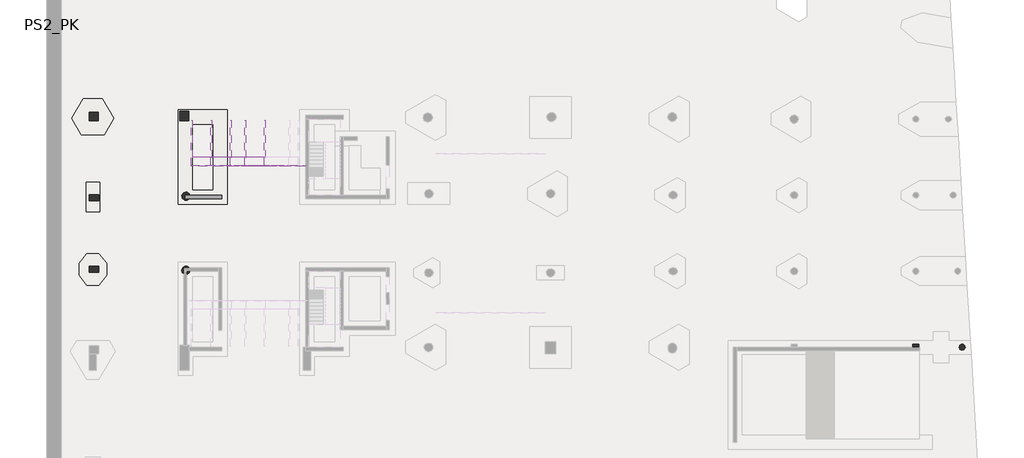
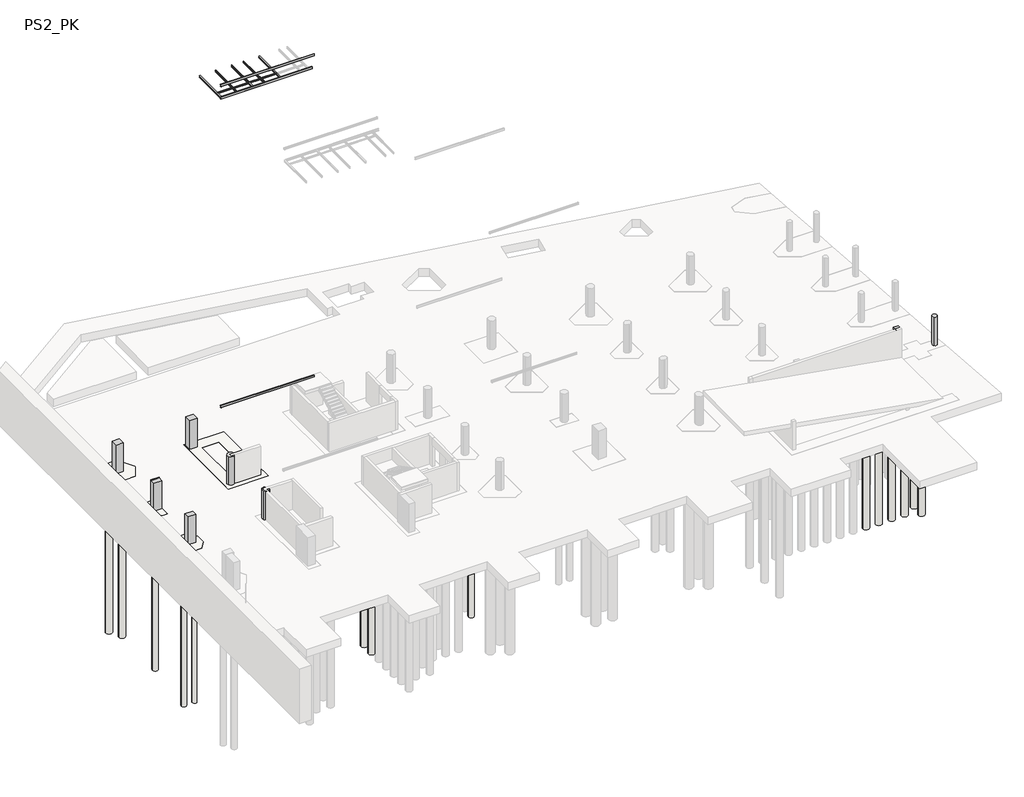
# One storey, part 5 of 10: 50 slabs, 12 beams, 8 columns.
"""IFC4 building model written with IfcOpenShell, lengths in millimetres."""

from ifc_helpers import new_model, si_unit, point, frame, frame_2d, origin, place, context, project, spatial, polyline, circle_curve, trimmed, segment, composite_curve, outline, extrude, faceted_brep, transform, mapped, element, save
from components import ub_universal_beams_ipe_160x82_eda7b881, ub_universal_beams_ipe_160x82_7e898317, upn120x55_8ca40f5d, upn120x55_f8c29ef0, upn120x55_6f2391d9, upn200x75_7de89c9f, upn200x75_1ffd0ced, upn200x75_a5d547cd

model = new_model("IFC4")

# Units and contexts
model_context = context("Model", 3, world=origin())
ifc_project = project(units=[si_unit("LENGTHUNIT", "METRE", prefix="MILLI")], contexts=[model_context])

# Site, building, storey
site = spatial("IfcSite", under=ifc_project)
building = spatial("IfcBuilding", under=site)
storey = spatial("IfcBuildingStorey", under=building, Name="PS2_PK", Elevation=-1600.0)

# Beams
placement = place(None, origin())
ub_universal_beams_ipe_160x82_shape = ub_universal_beams_ipe_160x82_eda7b881(model_context)
element("IfcBeam", 1, ObjectType="UB-Universal Beams : IPE 160x82", at=placement, inside=storey, context=model_context, shape_type="MappedRepresentation", body=[
    mapped(ub_universal_beams_ipe_160x82_shape, transform((-16990.4459316, 11897.1885611, 37780.0), x_axis=(0.0, -1.0, 0.0), y_axis=(1.0, 0.0, 0.0), z_axis=(0.0, 0.0, 1.0))),
])
element("IfcBeam", 2, ObjectType="UB-Universal Beams : IPE 160x82", at=placement, inside=storey, context=model_context, shape_type="MappedRepresentation", body=[
    mapped(ub_universal_beams_ipe_160x82_shape, transform((-18590.4459308, 11897.1885357, 37780.0), x_axis=(0.0, -1.0, 0.0), y_axis=(1.0, 0.0, 0.0), z_axis=(0.0, 0.0, 1.0))),
])
element("IfcBeam", 3, ObjectType="UB-Universal Beams : IPE 160x82", at=placement, inside=storey, context=model_context, shape_type="MappedRepresentation", body=[
    mapped(ub_universal_beams_ipe_160x82_shape, transform((-19790.4459314, 11897.1885167, 37780.0), x_axis=(0.0, -1.0, 0.0), y_axis=(1.0, 0.0, 0.0), z_axis=(0.0, 0.0, 1.0))),
])
element("IfcBeam", 4, ObjectType="UB-Universal Beams : IPE 160x82", at=placement, inside=storey, context=model_context, shape_type="MappedRepresentation", body=[
    mapped(ub_universal_beams_ipe_160x82_shape, transform((-21390.4459306, 11897.1884913, 37780.0), x_axis=(0.0, -1.0, 0.0), y_axis=(1.0, 0.0, 0.0), z_axis=(0.0, 0.0, 1.0))),
])
ub_universal_beams_ipe_160x82_2_shape = ub_universal_beams_ipe_160x82_7e898317(model_context)
element("IfcBeam", 5, ObjectType="UB-Universal Beams : IPE 160x82", at=placement, inside=storey, context=model_context, shape_type="MappedRepresentation", body=[
    mapped(ub_universal_beams_ipe_160x82_2_shape, transform((-22991.1860553, 11897.1884659, 37780.0), x_axis=(0.0, -1.0, 0.0), y_axis=(1.0, 0.0, 0.0), z_axis=(0.0, 0.0, 1.0))),
])
upn120x55_shape = upn120x55_8ca40f5d(model_context)
element("IfcBeam", 6, ObjectType="M_MC Shapes : UPN120x55", at=placement, inside=storey, context=model_context, shape_type="MappedRepresentation", body=[
    mapped(upn120x55_shape, transform((-22165.4459321, 10751.9793096, 37800.0), x_axis=(0.9999999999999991, 4.319865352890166e-08, 0.0), y_axis=(-4.319865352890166e-08, 0.9999999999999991, 0.0), z_axis=(0.0, 0.0, 1.0))),
])
upn120x55_2_shape = upn120x55_f8c29ef0(model_context)
element("IfcBeam", 7, ObjectType="M_MC Shapes : UPN120x55", at=placement, inside=storey, context=model_context, shape_type="MappedRepresentation", body=[
    mapped(upn120x55_2_shape, transform((-20590.445931, 10751.9793776, 37800.0), x_axis=(0.9999999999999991, 4.319865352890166e-08, 0.0), y_axis=(-4.319865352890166e-08, 0.9999999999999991, 0.0), z_axis=(0.0, 0.0, 1.0))),
])
element("IfcBeam", 8, ObjectType="M_MC Shapes : UPN120x55", at=placement, inside=storey, context=model_context, shape_type="MappedRepresentation", body=[
    mapped(upn120x55_2_shape, transform((-17790.4459312, 10751.9794985, 37800.0), x_axis=(0.9999999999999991, 4.319865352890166e-08, 0.0), y_axis=(-4.319865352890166e-08, 0.9999999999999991, 0.0), z_axis=(0.0, 0.0, 1.0))),
])
upn120x55_3_shape = upn120x55_6f2391d9(model_context)
element("IfcBeam", 9, ObjectType="M_MC Shapes : UPN120x55", at=placement, inside=storey, context=model_context, shape_type="MappedRepresentation", body=[
    mapped(upn120x55_3_shape, transform((-19190.4459311, 10751.9794381, 37800.0), x_axis=(0.9999999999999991, 4.319865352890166e-08, 0.0), y_axis=(-4.319865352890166e-08, 0.9999999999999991, 0.0), z_axis=(0.0, 0.0, 1.0))),
])
upn200x75_shape = upn200x75_7de89c9f(model_context)
element("IfcBeam", 10, ObjectType="M_MC Shapes : UPN200x75", at=placement, inside=storey, context=model_context, shape_type="MappedRepresentation", body=[
    mapped(upn200x75_shape, transform((-18340.3195829, 10001.279066, 39062.1136491), x_axis=(-0.9999999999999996, 3.175673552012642e-08, 0.0), y_axis=(-3.175673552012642e-08, -0.9999999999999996, 0.0), z_axis=(0.0, 0.0, 1.0))),
])
upn200x75_2_shape = upn200x75_1ffd0ced(model_context)
element("IfcBeam", 11, ObjectType="M_MC Shapes : UPN200x75", at=placement, inside=storey, context=model_context, shape_type="MappedRepresentation", body=[
    mapped(upn200x75_2_shape, transform((-18402.3873746, 10001.2790679, 37760.0000416), x_axis=(-0.9999999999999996, 3.175673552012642e-08, 0.0), y_axis=(-3.175673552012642e-08, -0.9999999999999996, 0.0), z_axis=(0.0, 0.0, 1.0))),
])
upn200x75_3_shape = upn200x75_a5d547cd(model_context)
element("IfcBeam", 12, ObjectType="M_MC Shapes : UPN200x75", at=placement, inside=storey, context=model_context, shape_type="MappedRepresentation", body=[
    mapped(upn200x75_3_shape, transform((-18277.8195826, 10001.279064, 4879.9998505), x_axis=(-0.9999999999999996, 3.175673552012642e-08, 0.0), y_axis=(-3.175673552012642e-08, -0.9999999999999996, 0.0), z_axis=(0.0, 0.0, 1.0))),
])

# Columns
element("IfcColumn", 13, ObjectType="Hormigón-Redondo-Pilar : Pilo_Rodo-Formigo-500", at=placement, inside=storey, context=model_context, shape_type="SweptSolid", body=[
    extrude(outline(composite_curve([segment(trimmed(circle_curve(frame_2d((40283.1132352, -4885.099143)), 250.0), [point((40077.2082942, -5026.8847392))], [point((40489.0181762, -4743.3135469))], False, "CARTESIAN"), True, "CONTINUOUS"), segment(trimmed(circle_curve(frame_2d((40283.1132352, -4885.099143)), 250.0), [point((40489.0181762, -4743.3135469))], [point((40077.2082942, -5026.8847392))], False, "CARTESIAN"), True, "CONTINUOUS")], self_intersect=False)), frame((0.0, 0.0, -1600.0), z_axis=(0.0, 0.0, 1.0), x_axis=(1.0, 0.0, 0.0)), (0.0, 0.0, 1.0), 3050.0),
])
element("IfcColumn", 14, ObjectType="Hormigón-Redondo-Pilar : Pilo_Rodo-Formigo-700", at=placement, inside=storey, context=model_context, shape_type="SweptSolid", body=[
    extrude(outline(composite_curve([segment(trimmed(circle_curve(frame_2d((-23466.2885663, 7539.5465846)), 350.0), [point((-23754.5554838, 7341.04675))], [point((-23178.0216489, 7738.0464192))], False, "CARTESIAN"), True, "CONTINUOUS"), segment(trimmed(circle_curve(frame_2d((-23466.2885663, 7539.5465846)), 350.0), [point((-23178.0216489, 7738.0464192))], [point((-23754.5554838, 7341.04675))], False, "CARTESIAN"), True, "CONTINUOUS")], self_intersect=False)), frame((0.0, 0.0, -1600.0), z_axis=(0.0, 0.0, 1.0), x_axis=(1.0, 0.0, 0.0)), (0.0, 0.0, 1.0), 3050.0),
])
element("IfcColumn", 15, ObjectType="Hormigón-Redondo-Pilar : Pilo_Rodo-Formigo-700", at=placement, inside=storey, context=model_context, shape_type="SweptSolid", body=[
    extrude(outline(composite_curve([segment(trimmed(circle_curve(frame_2d((-23466.2962849, 1440.0295581)), 350.0), [point((-23754.5632023, 1241.5297235))], [point((-23178.0293675, 1638.5293927))], False, "CARTESIAN"), True, "CONTINUOUS"), segment(trimmed(circle_curve(frame_2d((-23466.2962849, 1440.0295581)), 350.0), [point((-23178.0293675, 1638.5293927))], [point((-23754.5632023, 1241.5297235))], False, "CARTESIAN"), True, "CONTINUOUS")], self_intersect=False)), frame((0.0, 0.0, -1600.0), z_axis=(0.0, 0.0, 1.0), x_axis=(1.0, 0.0, 0.0)), (0.0, 0.0, 1.0), 3050.0),
])
element("IfcColumn", 16, ObjectType="Concrete-Rectangular-Column : Pilar_Rectangular-Formigo-500x800", at=placement, inside=storey, context=model_context, shape_type="SweptSolid", body=[
    extrude(outline(polyline([(-31415.295579, 1764.9008563), (-30615.295579, 1764.9008183), (-30615.2956027, 1264.9008183), (-31415.2956027, 1264.9008563), (-31415.295579, 1764.9008563)])), frame((0.0, 0.0, -1600.0), z_axis=(0.0, 0.0, 1.0), x_axis=(1.0, 0.0, 0.0)), (0.0, 0.0, 1.0), 3000.0),
])
element("IfcColumn", 17, ObjectType="Concrete-Rectangular-Column : Pilar_Rectangular-Formigo-500x800", at=placement, inside=storey, context=model_context, shape_type="Brep", body=[
    faceted_brep([(-31415.2955796, 7664.9023599, -1600.0), (-30615.2955796, 7664.9023218, -1600.0), (-30615.2956033, 7164.9023218, -1600.0), (-31415.2956033, 7164.9023599, -1600.0), (-31415.2955796, 7664.9023599, 1450.0), (-30615.2955796, 7664.9023218, 1450.0), (-30615.2955819, 7614.8960687, 1450.0), (-30615.2955819, 7614.8960793, 1400.0), (-30615.2956033, 7164.9023218, 1400.0), (-31415.2956033, 7164.9023599, 1400.0), (-31415.2955819, 7614.8960687, 1400.0), (-31415.2955819, 7614.8960793, 1450.0)], [[[0, 1, 2, 3]], [[1, 0, 4, 5]], [[2, 1, 5, 6, 7, 8]], [[3, 2, 8, 9]], [[0, 3, 9, 10, 11, 4]], [[5, 4, 11, 6]], [[7, 10, 9, 8]], [[10, 7, 6, 11]]]),
])
element("IfcColumn", 18, ObjectType="Concrete-Rectangular-Column : Pilar_Rectangular-Formigo-700x700", at=placement, inside=storey, context=model_context, shape_type="SweptSolid", body=[
    extrude(outline(polyline([(-31391.2006385, 14439.4357151), (-30691.2006385, 14439.4348283), (-30691.2015252, 13739.4348283), (-31391.2015252, 13739.4357151), (-31391.2006385, 14439.4357151)])), frame((0.0, 0.0, -1600.0), z_axis=(0.0, 0.0, 1.0), x_axis=(1.0, 0.0, 0.0)), (0.0, 0.0, 1.0), 3050.0),
])
element("IfcColumn", 19, ObjectType="Concrete-Rectangular-Column : Pilar_Rectangular-Formigo-500x500", at=placement, inside=storey, context=model_context, shape_type="SweptSolid", body=[
    extrude(outline(polyline([(36734.7069054, -4635.0991433), (36734.7068816, -5135.0991433), (36234.7068816, -5135.0991195), (36234.7069054, -4635.0991195), (36734.7069054, -4635.0991433)])), frame((0.0, 0.0, -1600.0), z_axis=(0.0, 0.0, 1.0), x_axis=(1.0, 0.0, 0.0)), (0.0, 0.0, 1.0), 3050.0),
])
element("IfcColumn", 20, ObjectType="Concrete-Rectangular-Column : Pilar_Rectangular-Formigo-750x750", at=placement, inside=storey, context=model_context, shape_type="SweptSolid", body=[
    extrude(outline(polyline([(-23241.1590896, 14489.4254197), (-23241.1600382, 13739.4254197), (-23991.1600382, 13739.4263684), (-23991.1590896, 14489.4263684), (-23241.1590896, 14489.4254197)])), frame((0.0, 0.0, -1600.0), z_axis=(0.0, 0.0, 1.0), x_axis=(1.0, 0.0, 0.0)), (0.0, 0.0, 1.0), 3050.0),
])

# Slabs
element("IfcSlab", 21, ObjectType="FunCap_Concreto_1100", at=placement, inside=storey, context=model_context, shape_type="Brep", body=[
    faceted_brep([(-20065.3067796, 6864.9054127, -2700.0), (-24115.306779, 6864.9105361, -2700.0), (-24115.296976, 14614.9105356, -2700.0), (-20065.2969757, 14614.9054118, -2700.0), (-21265.2984946, 13414.9069307, -2700.0), (-22915.2984936, 13414.9090186, -2700.0), (-22915.3052615, 8064.9090171, -2700.0), (-21265.3052625, 8064.9069306, -2700.0), (-20065.3067796, 6864.9054127, -1600.0), (-20065.2969757, 14614.9054118, -1600.0), (-24115.296976, 14614.9105356, -1600.0), (-24115.306779, 6864.9105361, -1600.0), (-21265.2984946, 13414.9069307, -1600.0), (-21265.3052625, 8064.9069306, -1600.0), (-22915.3052615, 8064.9090171, -1600.0), (-22915.2984936, 13414.9090186, -1600.0), (-20065.3067796, 6864.9054127, -2400.0), (-24115.306779, 6864.9105361, -2400.0), (-24115.296976, 14614.9105356, -2400.0), (-20065.2969757, 14614.9054118, -2400.0), (-21265.2984946, 13414.9069307, -2400.0), (-22915.2984936, 13414.9090186, -2400.0), (-22915.3052615, 8064.9090171, -2400.0), (-21265.3052625, 8064.9069306, -2400.0)], [[[0, 1, 2, 3], [4, 5, 6, 7]], [[8, 9, 10, 11], [12, 13, 14, 15]], [[1, 0, 16, 8, 11, 17]], [[2, 1, 17, 11, 10, 18]], [[3, 2, 18, 10, 9, 19]], [[0, 3, 19, 9, 8, 16]], [[5, 4, 20, 12, 15, 21]], [[6, 5, 21, 15, 14, 22]], [[7, 6, 22, 14, 13, 23]], [[4, 7, 23, 13, 12, 20]]]),
])
element("IfcSlab", 22, ObjectType="FunCap_Concreto_1100", at=placement, inside=storey, context=model_context, shape_type="Brep", body=[
    faceted_brep([(-29409.1416483, 13922.6252674, -2700.0), (-30186.3842538, 12576.4055184, -2700.0), (-32052.4206442, 12576.4078785, -2700.0), (-32829.6598431, 13922.6295949, -2700.0), (-31896.6396031, 15538.6633324, -2700.0), (-30342.1577997, 15538.6613654, -2700.0), (-29409.1416483, 13922.6252674, -1600.0), (-30342.1577997, 15538.6613654, -1600.0), (-31896.6396031, 15538.6633324, -1600.0), (-32829.6598431, 13922.6295949, -1600.0), (-32052.4206442, 12576.4078785, -1600.0), (-30186.3842538, 12576.4055184, -1600.0), (-29409.1416483, 13922.6252674, -2400.0), (-30186.3842538, 12576.4055184, -2400.0), (-32052.4206442, 12576.4078785, -2400.0), (-32829.6598431, 13922.6295949, -2400.0), (-31896.6396031, 15538.6633324, -2400.0), (-30342.1577997, 15538.6613654, -2400.0)], [[[0, 1, 2, 3, 4, 5]], [[6, 7, 8, 9, 10, 11]], [[1, 0, 12, 6, 11, 13]], [[2, 1, 13, 11, 10, 14]], [[3, 2, 14, 10, 9, 15]], [[4, 3, 15, 9, 8, 16]], [[5, 4, 16, 8, 7, 17]], [[0, 5, 17, 7, 6, 12]]]),
])
element("IfcSlab", 23, ObjectType="FunCap_Concreto_1100", at=placement, inside=storey, context=model_context, shape_type="Brep", body=[
    faceted_brep([(-31665.5808262, 8689.9200851, -2700.0), (-30565.5808257, 8689.9186941, -2700.0), (-30565.583926, 6239.9186948, -2700.0), (-31665.5839247, 6239.9200849, -2700.0), (-31665.5808262, 8689.9200851, -1600.0), (-31665.5839247, 6239.9200849, -1600.0), (-30565.583926, 6239.9186948, -1600.0), (-30565.5808257, 8689.9186941, -1600.0), (-31665.5808262, 8689.9200851, -2400.0), (-30565.5808257, 8689.9186941, -2400.0), (-30565.583926, 6239.9186948, -2400.0), (-31665.5839247, 6239.9200849, -2400.0)], [[[0, 1, 2, 3]], [[4, 5, 6, 7]], [[1, 0, 8, 4, 7, 9]], [[2, 1, 9, 7, 6, 10]], [[3, 2, 10, 6, 5, 11]], [[0, 3, 11, 5, 4, 8]]]),
])
element("IfcSlab", 24, ObjectType="FunCap_Concreto_1100", at=placement, inside=storey, context=model_context, shape_type="Brep", body=[
    faceted_brep([(-29986.983952, 1028.2899325, -2700.0), (-30628.9635193, 212.290831, -2700.0), (-31602.2195797, 212.2920616, -2700.0), (-32244.1970835, 1028.2927876, -2700.0), (-32244.195852, 2001.5488461, -2700.0), (-31602.2162837, 2817.547949, -2700.0), (-30628.9602242, 2817.5467175, -2700.0), (-29986.9827209, 2001.5459919, -2700.0), (-29986.983952, 1028.2899325, -1600.0), (-29986.9827209, 2001.5459919, -1600.0), (-30628.9602242, 2817.5467175, -1600.0), (-31602.2162837, 2817.547949, -1600.0), (-32244.195852, 2001.5488461, -1600.0), (-32244.1970835, 1028.2927876, -1600.0), (-31602.2195797, 212.2920616, -1600.0), (-30628.9635193, 212.290831, -1600.0), (-29986.983952, 1028.2899325, -2400.0), (-30628.9635193, 212.290831, -2400.0), (-31602.2195797, 212.2920616, -2400.0), (-32244.1970835, 1028.2927876, -2400.0), (-32244.195852, 2001.5488461, -2400.0), (-31602.2162837, 2817.547949, -2400.0), (-30628.9602242, 2817.5467175, -2400.0), (-29986.9827209, 2001.5459919, -2400.0)], [[[0, 1, 2, 3, 4, 5, 6, 7]], [[8, 9, 10, 11, 12, 13, 14, 15]], [[1, 0, 16, 8, 15, 17]], [[2, 1, 17, 15, 14, 18]], [[3, 2, 18, 14, 13, 19]], [[4, 3, 19, 13, 12, 20]], [[5, 4, 20, 12, 11, 21]], [[6, 5, 21, 11, 10, 22]], [[7, 6, 22, 10, 9, 23]], [[0, 7, 23, 9, 8, 16]]]),
])
element("IfcSlab", 25, ObjectType="Fun_Pilote_Redondo : Fun_Pilote_Redondo_550x16000", at=placement, inside=storey, context=model_context, shape_type="SweptSolid", body=[
    extrude(outline(composite_curve([segment(trimmed(circle_curve(frame_2d((-4150.2591501, 1239.7194795)), 275.0), [point((-4425.2591501, 1239.7194795))], [point((-3875.2591501, 1239.7194795))], False, "CARTESIAN"), True, "CONTINUOUS"), segment(trimmed(circle_curve(frame_2d((-4150.2591501, 1239.7194795)), 275.0), [point((-3875.2591501, 1239.7194795))], [point((-4425.2591501, 1239.7194795))], False, "CARTESIAN"), True, "CONTINUOUS")], self_intersect=False)), frame((0.0, 0.0, -18700.0), z_axis=(0.0, 0.0, 1.0), x_axis=(1.0, 0.0, 0.0)), (0.0, 0.0, 1.0), 16000.0),
])
element("IfcSlab", 26, ObjectType="Fun_Pilote_Redondo : Fun_Pilote_Redondo_550x16000", at=placement, inside=storey, context=model_context, shape_type="SweptSolid", body=[
    extrude(outline(composite_curve([segment(trimmed(circle_curve(frame_2d((-3197.5666384, 689.8313281)), 275.0), [point((-3472.5666384, 689.8313281))], [point((-2922.5666384, 689.8313281))], False, "CARTESIAN"), True, "CONTINUOUS"), segment(trimmed(circle_curve(frame_2d((-3197.5666384, 689.8313281)), 275.0), [point((-2922.5666384, 689.8313281))], [point((-3472.5666384, 689.8313281))], False, "CARTESIAN"), True, "CONTINUOUS")], self_intersect=False)), frame((0.0, 0.0, -18700.0), z_axis=(0.0, 0.0, 1.0), x_axis=(1.0, 0.0, 0.0)), (0.0, 0.0, 1.0), 16000.0),
])
element("IfcSlab", 27, ObjectType="Fun_Pilote_Redondo : Fun_Pilote_Redondo_550x16000", at=placement, inside=storey, context=model_context, shape_type="SweptSolid", body=[
    extrude(outline(composite_curve([segment(trimmed(circle_curve(frame_2d((-31115.3060179, 7464.9193936)), 275.0), [point((-31390.3060179, 7464.9193936))], [point((-30840.3060179, 7464.9193936))], False, "CARTESIAN"), True, "CONTINUOUS"), segment(trimmed(circle_curve(frame_2d((-31115.3060179, 7464.9193936)), 275.0), [point((-30840.3060179, 7464.9193936))], [point((-31390.3060179, 7464.9193936))], False, "CARTESIAN"), True, "CONTINUOUS")], self_intersect=False)), frame((0.0, 0.0, -18700.0), z_axis=(0.0, 0.0, 1.0), x_axis=(1.0, 0.0, 0.0)), (0.0, 0.0, 1.0), 16000.0),
])
element("IfcSlab", 28, ObjectType="Fun_Pilote_Redondo : Fun_Pilote_Redondo_550x16000", at=placement, inside=storey, context=model_context, shape_type="SweptSolid", body=[
    extrude(outline(composite_curve([segment(trimmed(circle_curve(frame_2d((-31665.0371891, 1514.9200884)), 275.0), [point((-31940.0371891, 1514.9200884))], [point((-31390.0371891, 1514.9200884))], False, "CARTESIAN"), True, "CONTINUOUS"), segment(trimmed(circle_curve(frame_2d((-31665.0371891, 1514.9200884)), 275.0), [point((-31390.0371891, 1514.9200884))], [point((-31940.0371891, 1514.9200884))], False, "CARTESIAN"), True, "CONTINUOUS")], self_intersect=False)), frame((0.0, 0.0, -18700.0), z_axis=(0.0, 0.0, 1.0), x_axis=(1.0, 0.0, 0.0)), (0.0, 0.0, 1.0), 16000.0),
])
element("IfcSlab", 29, ObjectType="Fun_Pilote_Redondo : Fun_Pilote_Redondo_550x16000", at=placement, inside=storey, context=model_context, shape_type="SweptSolid", body=[
    extrude(outline(composite_curve([segment(trimmed(circle_curve(frame_2d((-30565.5899003, 1514.9186977)), 275.0), [point((-30840.5899003, 1514.9186977))], [point((-30441.7323121, 1760.4473067))], False, "CARTESIAN"), True, "CONTINUOUS"), segment(trimmed(circle_curve(frame_2d((-30399.6296438, 1488.6893899)), 275.0), [point((-30441.7323121, 1760.4473067))], [point((-30674.6296438, 1488.6893899))], True, "CARTESIAN"), True, "CONTINUOUS"), segment(trimmed(circle_curve(frame_2d((-30399.6296438, 1488.6893899)), 275.0), [point((-30674.6296438, 1488.6893899))], [point((-30523.487232, 1243.1607809))], True, "CARTESIAN"), True, "CONTINUOUS"), segment(trimmed(circle_curve(frame_2d((-30565.5899003, 1514.9186977)), 275.0), [point((-30523.487232, 1243.1607809))], [point((-30840.5899003, 1514.9186977))], False, "CARTESIAN"), True, "CONTINUOUS")], self_intersect=False)), frame((0.0, 0.0, -18700.0), z_axis=(0.0, 0.0, 1.0), x_axis=(1.0, 0.0, 0.0)), (0.0, 0.0, 1.0), 16000.0),
])
element("IfcSlab", 30, ObjectType="Fun_Pilote_Redondo : Fun_Pilote_Redondo_Conc_650x16000", at=placement, inside=storey, context=model_context, shape_type="SweptSolid", body=[
    extrude(outline(composite_curve([segment(trimmed(circle_curve(frame_2d((-31763.2458087, 14391.3748388)), 325.0), [point((-32088.2458087, 14391.3748388))], [point((-31438.2458087, 14391.3748388))], False, "CARTESIAN"), True, "CONTINUOUS"), segment(trimmed(circle_curve(frame_2d((-31763.2458087, 14391.3748388)), 325.0), [point((-31438.2458087, 14391.3748388))], [point((-32088.2458087, 14391.3748388))], False, "CARTESIAN"), True, "CONTINUOUS")], self_intersect=False)), frame((0.0, 0.0, -18700.0), z_axis=(0.0, 0.0, 1.0), x_axis=(1.0, 0.0, 0.0)), (0.0, 0.0, 1.0), 16000.0),
])
element("IfcSlab", 31, ObjectType="Fun_Pilote_Redondo : Fun_Pilote_Redondo_Conc_650x16000", at=placement, inside=storey, context=model_context, shape_type="SweptSolid", body=[
    extrude(outline(composite_curve([segment(trimmed(circle_curve(frame_2d((-30463.2458084, 14391.3731938)), 325.0), [point((-30788.2458084, 14391.3731938))], [point((-30138.2458084, 14391.3731938))], False, "CARTESIAN"), True, "CONTINUOUS"), segment(trimmed(circle_curve(frame_2d((-30463.2458084, 14391.3731938)), 325.0), [point((-30138.2458084, 14391.3731938))], [point((-30788.2458084, 14391.3731938))], False, "CARTESIAN"), True, "CONTINUOUS")], self_intersect=False)), frame((0.0, 0.0, -18700.0), z_axis=(0.0, 0.0, 1.0), x_axis=(1.0, 0.0, 0.0)), (0.0, 0.0, 1.0), 16000.0),
])
element("IfcSlab", 32, ObjectType="Fun_Pilote_Redondo : Fun_Pilote_Redondo_Conc_650x16000", at=placement, inside=storey, context=model_context, shape_type="SweptSolid", body=[
    extrude(outline(composite_curve([segment(trimmed(circle_curve(frame_2d((-31119.4015783, 13262.0101471)), 325.0), [point((-31444.4015783, 13262.0101471))], [point((-30794.4015783, 13262.0101471))], False, "CARTESIAN"), True, "CONTINUOUS"), segment(trimmed(circle_curve(frame_2d((-31119.4015783, 13262.0101471)), 325.0), [point((-30794.4015783, 13262.0101471))], [point((-31444.4015783, 13262.0101471))], False, "CARTESIAN"), True, "CONTINUOUS")], self_intersect=False)), frame((0.0, 0.0, -18700.0), z_axis=(0.0, 0.0, 1.0), x_axis=(1.0, 0.0, 0.0)), (0.0, 0.0, 1.0), 16000.0),
])
element("IfcSlab", 33, ObjectType="Fun_Pilote_Redondo : Fun_Pilote_Redondo_Conc_650x16000", at=placement, inside=storey, context=model_context, shape_type="SweptSolid", body=[
    extrude(outline(composite_curve([segment(trimmed(circle_curve(frame_2d((-23515.2977637, 13989.9097788)), 325.0), [point((-23840.2977637, 13989.9097788))], [point((-23190.2977637, 13989.9097788))], False, "CARTESIAN"), True, "CONTINUOUS"), segment(trimmed(circle_curve(frame_2d((-23515.2977637, 13989.9097788)), 325.0), [point((-23190.2977637, 13989.9097788))], [point((-23840.2977637, 13989.9097788))], False, "CARTESIAN"), True, "CONTINUOUS")], self_intersect=False)), frame((0.0, 0.0, -18700.0), z_axis=(0.0, 0.0, 1.0), x_axis=(1.0, 0.0, 0.0)), (0.0, 0.0, 1.0), 16000.0),
])
element("IfcSlab", 34, ObjectType="Fun_Pilote_Redondo : Fun_Pilote_Redondo_Conc_650x16000", at=placement, inside=storey, context=model_context, shape_type="SweptSolid", body=[
    extrude(outline(composite_curve([segment(trimmed(circle_curve(frame_2d((-22090.2977629, 13989.907976)), 325.0), [point((-22415.2977629, 13989.907976))], [point((-21765.2977629, 13989.907976))], False, "CARTESIAN"), True, "CONTINUOUS"), segment(trimmed(circle_curve(frame_2d((-22090.2977629, 13989.907976)), 325.0), [point((-21765.2977629, 13989.907976))], [point((-22415.2977629, 13989.907976))], False, "CARTESIAN"), True, "CONTINUOUS")], self_intersect=False)), frame((0.0, 0.0, -18700.0), z_axis=(0.0, 0.0, 1.0), x_axis=(1.0, 0.0, 0.0)), (0.0, 0.0, 1.0), 16000.0),
])
element("IfcSlab", 35, ObjectType="Fun_Pilote_Redondo : Fun_Pilote_Redondo_Conc_650x16000", at=placement, inside=storey, context=model_context, shape_type="SweptSolid", body=[
    extrude(outline(composite_curve([segment(trimmed(circle_curve(frame_2d((-20656.3076681, 13989.9061618)), 325.0), [point((-20981.3076681, 13989.9061618))], [point((-20331.3076681, 13989.9061618))], False, "CARTESIAN"), True, "CONTINUOUS"), segment(trimmed(circle_curve(frame_2d((-20656.3076681, 13989.9061618)), 325.0), [point((-20331.3076681, 13989.9061618))], [point((-20981.3076681, 13989.9061618))], False, "CARTESIAN"), True, "CONTINUOUS")], self_intersect=False)), frame((0.0, 0.0, -18700.0), z_axis=(0.0, 0.0, 1.0), x_axis=(1.0, 0.0, 0.0)), (0.0, 0.0, 1.0), 16000.0),
])
element("IfcSlab", 36, ObjectType="Fun_Pilote_Redondo : Fun_Pilote_Redondo_Conc_650x16000", at=placement, inside=storey, context=model_context, shape_type="SweptSolid", body=[
    extrude(outline(composite_curve([segment(trimmed(circle_curve(frame_2d((-20656.3093131, 12689.9061615)), 325.0), [point((-20981.3093131, 12689.9061615))], [point((-20331.3093131, 12689.9061615))], False, "CARTESIAN"), True, "CONTINUOUS"), segment(trimmed(circle_curve(frame_2d((-20656.3093131, 12689.9061615)), 325.0), [point((-20331.3093131, 12689.9061615))], [point((-20981.3093131, 12689.9061615))], False, "CARTESIAN"), True, "CONTINUOUS")], self_intersect=False)), frame((0.0, 0.0, -18700.0), z_axis=(0.0, 0.0, 1.0), x_axis=(1.0, 0.0, 0.0)), (0.0, 0.0, 1.0), 16000.0),
])
element("IfcSlab", 37, ObjectType="Fun_Pilote_Redondo : Fun_Pilote_Redondo_Conc_650x16000", at=placement, inside=storey, context=model_context, shape_type="SweptSolid", body=[
    extrude(outline(composite_curve([segment(trimmed(circle_curve(frame_2d((-20656.3109571, 11389.9061617)), 325.0), [point((-20981.3109571, 11389.9061617))], [point((-20331.3109571, 11389.9061617))], False, "CARTESIAN"), True, "CONTINUOUS"), segment(trimmed(circle_curve(frame_2d((-20656.3109571, 11389.9061617)), 325.0), [point((-20331.3109571, 11389.9061617))], [point((-20981.3109571, 11389.9061617))], False, "CARTESIAN"), True, "CONTINUOUS")], self_intersect=False)), frame((0.0, 0.0, -18700.0), z_axis=(0.0, 0.0, 1.0), x_axis=(1.0, 0.0, 0.0)), (0.0, 0.0, 1.0), 16000.0),
])
element("IfcSlab", 38, ObjectType="Fun_Pilote_Redondo : Fun_Pilote_Redondo_Conc_650x16000", at=placement, inside=storey, context=model_context, shape_type="SweptSolid", body=[
    extrude(outline(composite_curve([segment(trimmed(circle_curve(frame_2d((-20656.3126026, 10089.9061624)), 325.0), [point((-20981.3126026, 10089.9061624))], [point((-20331.3126026, 10089.9061624))], False, "CARTESIAN"), True, "CONTINUOUS"), segment(trimmed(circle_curve(frame_2d((-20656.3126026, 10089.9061624)), 325.0), [point((-20331.3126026, 10089.9061624))], [point((-20981.3126026, 10089.9061624))], False, "CARTESIAN"), True, "CONTINUOUS")], self_intersect=False)), frame((0.0, 0.0, -18700.0), z_axis=(0.0, 0.0, 1.0), x_axis=(1.0, 0.0, 0.0)), (0.0, 0.0, 1.0), 16000.0),
])
element("IfcSlab", 39, ObjectType="Fun_Pilote_Redondo : Fun_Pilote_Redondo_Conc_650x16000", at=placement, inside=storey, context=model_context, shape_type="SweptSolid", body=[
    extrude(outline(composite_curve([segment(trimmed(circle_curve(frame_2d((-20656.3142471, 8789.9061621)), 325.0), [point((-20981.3142471, 8789.9061621))], [point((-20331.3142471, 8789.9061621))], False, "CARTESIAN"), True, "CONTINUOUS"), segment(trimmed(circle_curve(frame_2d((-20656.3142471, 8789.9061621)), 325.0), [point((-20331.3142471, 8789.9061621))], [point((-20981.3142471, 8789.9061621))], False, "CARTESIAN"), True, "CONTINUOUS")], self_intersect=False)), frame((0.0, 0.0, -18700.0), z_axis=(0.0, 0.0, 1.0), x_axis=(1.0, 0.0, 0.0)), (0.0, 0.0, 1.0), 16000.0),
])
element("IfcSlab", 40, ObjectType="Fun_Pilote_Redondo : Fun_Pilote_Redondo_Conc_650x16000", at=placement, inside=storey, context=model_context, shape_type="SweptSolid", body=[
    extrude(outline(composite_curve([segment(trimmed(circle_curve(frame_2d((-20656.3158911, 7489.9061618)), 325.0), [point((-20981.3158911, 7489.9061618))], [point((-20331.3158911, 7489.9061618))], False, "CARTESIAN"), True, "CONTINUOUS"), segment(trimmed(circle_curve(frame_2d((-20656.3158911, 7489.9061618)), 325.0), [point((-20331.3158911, 7489.9061618))], [point((-20981.3158911, 7489.9061618))], False, "CARTESIAN"), True, "CONTINUOUS")], self_intersect=False)), frame((0.0, 0.0, -18700.0), z_axis=(0.0, 0.0, 1.0), x_axis=(1.0, 0.0, 0.0)), (0.0, 0.0, 1.0), 16000.0),
])
element("IfcSlab", 41, ObjectType="Fun_Pilote_Redondo : Fun_Pilote_Redondo_Conc_650x16000", at=placement, inside=storey, context=model_context, shape_type="SweptSolid", body=[
    extrude(outline(composite_curve([segment(trimmed(circle_curve(frame_2d((-22090.3059864, 7489.907976)), 325.0), [point((-22415.3059864, 7489.907976))], [point((-21765.3059864, 7489.907976))], False, "CARTESIAN"), True, "CONTINUOUS"), segment(trimmed(circle_curve(frame_2d((-22090.3059864, 7489.907976)), 325.0), [point((-21765.3059864, 7489.907976))], [point((-22415.3059864, 7489.907976))], False, "CARTESIAN"), True, "CONTINUOUS")], self_intersect=False)), frame((0.0, 0.0, -18700.0), z_axis=(0.0, 0.0, 1.0), x_axis=(1.0, 0.0, 0.0)), (0.0, 0.0, 1.0), 16000.0),
])
element("IfcSlab", 42, ObjectType="Fun_Pilote_Redondo : Fun_Pilote_Redondo_Conc_650x16000", at=placement, inside=storey, context=model_context, shape_type="SweptSolid", body=[
    extrude(outline(composite_curve([segment(trimmed(circle_curve(frame_2d((-23515.3059872, 7489.1075804)), 325.0), [point((-23840.3059872, 7489.1075804))], [point((-23190.3059872, 7489.1075804))], False, "CARTESIAN"), True, "CONTINUOUS"), segment(trimmed(circle_curve(frame_2d((-23515.3059872, 7489.1075804)), 325.0), [point((-23190.3059872, 7489.1075804))], [point((-23840.3059872, 7489.1075804))], False, "CARTESIAN"), True, "CONTINUOUS")], self_intersect=False)), frame((0.0, 0.0, -18700.0), z_axis=(0.0, 0.0, 1.0), x_axis=(1.0, 0.0, 0.0)), (0.0, 0.0, 1.0), 16000.0),
])
element("IfcSlab", 43, ObjectType="Fun_Pilote_Redondo : Fun_Pilote_Redondo_Conc_650x16000", at=placement, inside=storey, context=model_context, shape_type="SweptSolid", body=[
    extrude(outline(composite_curve([segment(trimmed(circle_curve(frame_2d((-23515.3043422, 8789.9097791)), 325.0), [point((-23840.3043422, 8789.9097791))], [point((-23190.3043422, 8789.9097791))], False, "CARTESIAN"), True, "CONTINUOUS"), segment(trimmed(circle_curve(frame_2d((-23515.3043422, 8789.9097791)), 325.0), [point((-23190.3043422, 8789.9097791))], [point((-23840.3043422, 8789.9097791))], False, "CARTESIAN"), True, "CONTINUOUS")], self_intersect=False)), frame((0.0, 0.0, -18700.0), z_axis=(0.0, 0.0, 1.0), x_axis=(1.0, 0.0, 0.0)), (0.0, 0.0, 1.0), 16000.0),
])
element("IfcSlab", 44, ObjectType="Fun_Pilote_Redondo : Fun_Pilote_Redondo_Conc_650x16000", at=placement, inside=storey, context=model_context, shape_type="SweptSolid", body=[
    extrude(outline(composite_curve([segment(trimmed(circle_curve(frame_2d((-23515.3026967, 10089.9097784)), 325.0), [point((-23840.3026967, 10089.9097784))], [point((-23190.3026967, 10089.9097784))], False, "CARTESIAN"), True, "CONTINUOUS"), segment(trimmed(circle_curve(frame_2d((-23515.3026967, 10089.9097784)), 325.0), [point((-23190.3026967, 10089.9097784))], [point((-23840.3026967, 10089.9097784))], False, "CARTESIAN"), True, "CONTINUOUS")], self_intersect=False)), frame((0.0, 0.0, -18700.0), z_axis=(0.0, 0.0, 1.0), x_axis=(1.0, 0.0, 0.0)), (0.0, 0.0, 1.0), 16000.0),
])
element("IfcSlab", 45, ObjectType="Fun_Pilote_Redondo : Fun_Pilote_Redondo_Conc_650x16000", at=placement, inside=storey, context=model_context, shape_type="SweptSolid", body=[
    extrude(outline(composite_curve([segment(trimmed(circle_curve(frame_2d((-23515.3010522, 11389.9097787)), 325.0), [point((-23840.3010522, 11389.9097787))], [point((-23190.3010522, 11389.9097787))], False, "CARTESIAN"), True, "CONTINUOUS"), segment(trimmed(circle_curve(frame_2d((-23515.3010522, 11389.9097787)), 325.0), [point((-23190.3010522, 11389.9097787))], [point((-23840.3010522, 11389.9097787))], False, "CARTESIAN"), True, "CONTINUOUS")], self_intersect=False)), frame((0.0, 0.0, -18700.0), z_axis=(0.0, 0.0, 1.0), x_axis=(1.0, 0.0, 0.0)), (0.0, 0.0, 1.0), 16000.0),
])
element("IfcSlab", 46, ObjectType="Fun_Pilote_Redondo : Fun_Pilote_Redondo_Conc_650x16000", at=placement, inside=storey, context=model_context, shape_type="SweptSolid", body=[
    extrude(outline(composite_curve([segment(trimmed(circle_curve(frame_2d((-23515.2994082, 12689.9097785)), 325.0), [point((-23840.2994082, 12689.9097785))], [point((-23190.2994082, 12689.9097785))], False, "CARTESIAN"), True, "CONTINUOUS"), segment(trimmed(circle_curve(frame_2d((-23515.2994082, 12689.9097785)), 325.0), [point((-23190.2994082, 12689.9097785))], [point((-23840.2994082, 12689.9097785))], False, "CARTESIAN"), True, "CONTINUOUS")], self_intersect=False)), frame((0.0, 0.0, -18700.0), z_axis=(0.0, 0.0, 1.0), x_axis=(1.0, 0.0, 0.0)), (0.0, 0.0, 1.0), 16000.0),
])
element("IfcSlab", 47, ObjectType="Fun_Pilote_Redondo : Fun_Pilote_Redondo_Conc_650x16000", at=placement, inside=storey, context=model_context, shape_type="SweptSolid", body=[
    extrude(outline(composite_curve([segment(trimmed(circle_curve(frame_2d((-8056.3158915, 7489.890222)), 325.0), [point((-8381.3158915, 7489.890222))], [point((-7731.3158915, 7489.890222))], False, "CARTESIAN"), True, "CONTINUOUS"), segment(trimmed(circle_curve(frame_2d((-8056.3158915, 7489.890222)), 325.0), [point((-7731.3158915, 7489.890222))], [point((-8381.3158915, 7489.890222))], False, "CARTESIAN"), True, "CONTINUOUS")], self_intersect=False)), frame((0.0, 0.0, -18700.0), z_axis=(0.0, 0.0, 1.0), x_axis=(1.0, 0.0, 0.0)), (0.0, 0.0, 1.0), 16000.0),
])
element("IfcSlab", 48, ObjectType="Fun_Pilote_Redondo : Fun_Pilote_Redondo_Conc_650x16000", at=placement, inside=storey, context=model_context, shape_type="SweptSolid", body=[
    extrude(outline(composite_curve([segment(trimmed(circle_curve(frame_2d((-9356.3158913, 7489.8918665)), 325.0), [point((-9681.3158913, 7489.8918665))], [point((-9031.3158913, 7489.8918665))], False, "CARTESIAN"), True, "CONTINUOUS"), segment(trimmed(circle_curve(frame_2d((-9356.3158913, 7489.8918665)), 325.0), [point((-9031.3158913, 7489.8918665))], [point((-9681.3158913, 7489.8918665))], False, "CARTESIAN"), True, "CONTINUOUS")], self_intersect=False)), frame((0.0, 0.0, -18700.0), z_axis=(0.0, 0.0, 1.0), x_axis=(1.0, 0.0, 0.0)), (0.0, 0.0, 1.0), 16000.0),
])
element("IfcSlab", 49, ObjectType="Fun_Pilote_Redondo : Fun_Pilote_Redondo_Conc_650x16000", at=placement, inside=storey, context=model_context, shape_type="SweptSolid", body=[
    extrude(outline(composite_curve([segment(trimmed(circle_curve(frame_2d((-10656.3158916, 7489.893511)), 325.0), [point((-10981.3158916, 7489.893511))], [point((-10331.3158916, 7489.893511))], False, "CARTESIAN"), True, "CONTINUOUS"), segment(trimmed(circle_curve(frame_2d((-10656.3158916, 7489.893511)), 325.0), [point((-10331.3158916, 7489.893511))], [point((-10981.3158916, 7489.893511))], False, "CARTESIAN"), True, "CONTINUOUS")], self_intersect=False)), frame((0.0, 0.0, -18700.0), z_axis=(0.0, 0.0, 1.0), x_axis=(1.0, 0.0, 0.0)), (0.0, 0.0, 1.0), 16000.0),
])
element("IfcSlab", 50, ObjectType="Fun_Pilote_Redondo : Fun_Pilote_Redondo_Conc_650x16000", at=placement, inside=storey, context=model_context, shape_type="SweptSolid", body=[
    extrude(outline(composite_curve([segment(trimmed(circle_curve(frame_2d((-12090.3059864, 7489.8953252)), 325.0), [point((-12415.3059864, 7489.8953252))], [point((-11765.3059864, 7489.8953252))], False, "CARTESIAN"), True, "CONTINUOUS"), segment(trimmed(circle_curve(frame_2d((-12090.3059864, 7489.8953252)), 325.0), [point((-11765.3059864, 7489.8953252))], [point((-12415.3059864, 7489.8953252))], False, "CARTESIAN"), True, "CONTINUOUS")], self_intersect=False)), frame((0.0, 0.0, -18700.0), z_axis=(0.0, 0.0, 1.0), x_axis=(1.0, 0.0, 0.0)), (0.0, 0.0, 1.0), 16000.0),
])
element("IfcSlab", 51, ObjectType="Fun_Pilote_Redondo : Fun_Pilote_Redondo_Conc_650x16000", at=placement, inside=storey, context=model_context, shape_type="SweptSolid", body=[
    extrude(outline(composite_curve([segment(trimmed(circle_curve(frame_2d((-13515.3059862, 7489.897128)), 325.0), [point((-13840.3059862, 7489.897128))], [point((-13190.3059862, 7489.897128))], False, "CARTESIAN"), True, "CONTINUOUS"), segment(trimmed(circle_curve(frame_2d((-13515.3059862, 7489.897128)), 325.0), [point((-13190.3059862, 7489.897128))], [point((-13840.3059862, 7489.897128))], False, "CARTESIAN"), True, "CONTINUOUS")], self_intersect=False)), frame((0.0, 0.0, -18700.0), z_axis=(0.0, 0.0, 1.0), x_axis=(1.0, 0.0, 0.0)), (0.0, 0.0, 1.0), 16000.0),
])
element("IfcSlab", 52, ObjectType="Fun_Pilote_Redondo : Fun_Pilote_Redondo_Conc_650x16000", at=placement, inside=storey, context=model_context, shape_type="SweptSolid", body=[
    extrude(outline(composite_curve([segment(trimmed(circle_curve(frame_2d((-23515.3135754, 1490.7119768)), 325.0), [point((-23840.3135754, 1490.7119768))], [point((-23190.3135754, 1490.7119768))], False, "CARTESIAN"), True, "CONTINUOUS"), segment(trimmed(circle_curve(frame_2d((-23515.3135754, 1490.7119768)), 325.0), [point((-23190.3135754, 1490.7119768))], [point((-23840.3135754, 1490.7119768))], False, "CARTESIAN"), True, "CONTINUOUS")], self_intersect=False)), frame((0.0, 0.0, -18700.0), z_axis=(0.0, 0.0, 1.0), x_axis=(1.0, 0.0, 0.0)), (0.0, 0.0, 1.0), 16000.0),
])
element("IfcSlab", 53, ObjectType="Fun_Pilote_Redondo : Fun_Pilote_Redondo_Conc_650x16000", at=placement, inside=storey, context=model_context, shape_type="SweptSolid", body=[
    extrude(outline(composite_curve([segment(trimmed(circle_curve(frame_2d((-22090.3135766, 1489.9079756)), 325.0), [point((-22415.3135766, 1489.9079756))], [point((-21765.3135766, 1489.9079756))], False, "CARTESIAN"), True, "CONTINUOUS"), segment(trimmed(circle_curve(frame_2d((-22090.3135766, 1489.9079756)), 325.0), [point((-21765.3135766, 1489.9079756))], [point((-22415.3135766, 1489.9079756))], False, "CARTESIAN"), True, "CONTINUOUS")], self_intersect=False)), frame((0.0, 0.0, -18700.0), z_axis=(0.0, 0.0, 1.0), x_axis=(1.0, 0.0, 0.0)), (0.0, 0.0, 1.0), 16000.0),
])
element("IfcSlab", 54, ObjectType="Fun_Pilote_Redondo : Fun_Pilote_Redondo_Conc_650x16000", at=placement, inside=storey, context=model_context, shape_type="SweptSolid", body=[
    extrude(outline(composite_curve([segment(trimmed(circle_curve(frame_2d((-20656.3234813, 1489.9061618)), 325.0), [point((-20981.3234813, 1489.9061618))], [point((-20331.3234813, 1489.9061618))], False, "CARTESIAN"), True, "CONTINUOUS"), segment(trimmed(circle_curve(frame_2d((-20656.3234813, 1489.9061618)), 325.0), [point((-20331.3234813, 1489.9061618))], [point((-20981.3234813, 1489.9061618))], False, "CARTESIAN"), True, "CONTINUOUS")], self_intersect=False)), frame((0.0, 0.0, -18700.0), z_axis=(0.0, 0.0, 1.0), x_axis=(1.0, 0.0, 0.0)), (0.0, 0.0, 1.0), 16000.0),
])
element("IfcSlab", 55, ObjectType="Fun_Pilote_Redondo : Fun_Pilote_Redondo_Conc_650x16000", at=placement, inside=storey, context=model_context, shape_type="SweptSolid", body=[
    extrude(outline(composite_curve([segment(trimmed(circle_curve(frame_2d((-20656.3251263, 189.9061625)), 325.0), [point((-20981.3251263, 189.9061625))], [point((-20331.3251263, 189.9061625))], False, "CARTESIAN"), True, "CONTINUOUS"), segment(trimmed(circle_curve(frame_2d((-20656.3251263, 189.9061625)), 325.0), [point((-20331.3251263, 189.9061625))], [point((-20981.3251263, 189.9061625))], False, "CARTESIAN"), True, "CONTINUOUS")], self_intersect=False)), frame((0.0, 0.0, -18700.0), z_axis=(0.0, 0.0, 1.0), x_axis=(1.0, 0.0, 0.0)), (0.0, 0.0, 1.0), 16000.0),
])
element("IfcSlab", 56, ObjectType="Fun_Pilote_Redondo : Fun_Pilote_Redondo_Conc_650x16000", at=placement, inside=storey, context=model_context, shape_type="SweptSolid", body=[
    extrude(outline(composite_curve([segment(trimmed(circle_curve(frame_2d((-23515.3152209, 189.9097785)), 325.0), [point((-23840.3152209, 189.9097785))], [point((-23190.3152209, 189.9097785))], False, "CARTESIAN"), True, "CONTINUOUS"), segment(trimmed(circle_curve(frame_2d((-23515.3152209, 189.9097785)), 325.0), [point((-23190.3152209, 189.9097785))], [point((-23840.3152209, 189.9097785))], False, "CARTESIAN"), True, "CONTINUOUS")], self_intersect=False)), frame((0.0, 0.0, -18700.0), z_axis=(0.0, 0.0, 1.0), x_axis=(1.0, 0.0, 0.0)), (0.0, 0.0, 1.0), 16000.0),
])
element("IfcSlab", 57, ObjectType="Fun_Pilote_Redondo : Fun_Pilote_Redondo_Conc_650x16000", at=placement, inside=storey, context=model_context, shape_type="SweptSolid", body=[
    extrude(outline(composite_curve([segment(trimmed(circle_curve(frame_2d((-13515.3135764, 1489.897128)), 325.0), [point((-13840.3135764, 1489.897128))], [point((-13190.3135764, 1489.897128))], False, "CARTESIAN"), True, "CONTINUOUS"), segment(trimmed(circle_curve(frame_2d((-13515.3135764, 1489.897128)), 325.0), [point((-13190.3135764, 1489.897128))], [point((-13840.3135764, 1489.897128))], False, "CARTESIAN"), True, "CONTINUOUS")], self_intersect=False)), frame((0.0, 0.0, -18700.0), z_axis=(0.0, 0.0, 1.0), x_axis=(1.0, 0.0, 0.0)), (0.0, 0.0, 1.0), 16000.0),
])
element("IfcSlab", 58, ObjectType="Fun_Pilote_Redondo : Fun_Pilote_Redondo_Conc_650x16000", at=placement, inside=storey, context=model_context, shape_type="SweptSolid", body=[
    extrude(outline(composite_curve([segment(trimmed(circle_curve(frame_2d((-12090.3135766, 1489.8953247)), 325.0), [point((-12415.3135766, 1489.8953247))], [point((-11765.3135766, 1489.8953247))], False, "CARTESIAN"), True, "CONTINUOUS"), segment(trimmed(circle_curve(frame_2d((-12090.3135766, 1489.8953247)), 325.0), [point((-11765.3135766, 1489.8953247))], [point((-12415.3135766, 1489.8953247))], False, "CARTESIAN"), True, "CONTINUOUS")], self_intersect=False)), frame((0.0, 0.0, -18700.0), z_axis=(0.0, 0.0, 1.0), x_axis=(1.0, 0.0, 0.0)), (0.0, 0.0, 1.0), 16000.0),
])
element("IfcSlab", 59, ObjectType="Fun_Pilote_Redondo : Fun_Pilote_Redondo_Conc_650x16000", at=placement, inside=storey, context=model_context, shape_type="SweptSolid", body=[
    extrude(outline(composite_curve([segment(trimmed(circle_curve(frame_2d((-10656.3234813, 1489.893511)), 325.0), [point((-10981.3234813, 1489.893511))], [point((-10331.3234813, 1489.893511))], False, "CARTESIAN"), True, "CONTINUOUS"), segment(trimmed(circle_curve(frame_2d((-10656.3234813, 1489.893511)), 325.0), [point((-10331.3234813, 1489.893511))], [point((-10981.3234813, 1489.893511))], False, "CARTESIAN"), True, "CONTINUOUS")], self_intersect=False)), frame((0.0, 0.0, -18700.0), z_axis=(0.0, 0.0, 1.0), x_axis=(1.0, 0.0, 0.0)), (0.0, 0.0, 1.0), 16000.0),
])
element("IfcSlab", 60, ObjectType="Fun_Pilote_Redondo : Fun_Pilote_Redondo_Conc_650x16000", at=placement, inside=storey, context=model_context, shape_type="SweptSolid", body=[
    extrude(outline(composite_curve([segment(trimmed(circle_curve(frame_2d((-9356.323481, 1489.8918665)), 325.0), [point((-9681.323481, 1489.8918665))], [point((-9031.323481, 1489.8918665))], False, "CARTESIAN"), True, "CONTINUOUS"), segment(trimmed(circle_curve(frame_2d((-9356.323481, 1489.8918665)), 325.0), [point((-9031.323481, 1489.8918665))], [point((-9681.323481, 1489.8918665))], False, "CARTESIAN"), True, "CONTINUOUS")], self_intersect=False)), frame((0.0, 0.0, -18700.0), z_axis=(0.0, 0.0, 1.0), x_axis=(1.0, 0.0, 0.0)), (0.0, 0.0, 1.0), 16000.0),
])
element("IfcSlab", 61, ObjectType="Fun_Pilote_Redondo : Fun_Pilote_Redondo_Conc_650x16000", at=placement, inside=storey, context=model_context, shape_type="SweptSolid", body=[
    extrude(outline(composite_curve([segment(trimmed(circle_curve(frame_2d((-8056.3234817, 1489.890222)), 325.0), [point((-8381.3234817, 1489.890222))], [point((-7731.3234817, 1489.890222))], False, "CARTESIAN"), True, "CONTINUOUS"), segment(trimmed(circle_curve(frame_2d((-8056.3234817, 1489.890222)), 325.0), [point((-7731.3234817, 1489.890222))], [point((-8381.3234817, 1489.890222))], False, "CARTESIAN"), True, "CONTINUOUS")], self_intersect=False)), frame((0.0, 0.0, -18700.0), z_axis=(0.0, 0.0, 1.0), x_axis=(1.0, 0.0, 0.0)), (0.0, 0.0, 1.0), 16000.0),
])
element("IfcSlab", 62, ObjectType="Fun_Pilote_Redondo : Fun_Pilote_Redondo_Conc_650x16000", at=placement, inside=storey, context=model_context, shape_type="SweptSolid", body=[
    extrude(outline(composite_curve([segment(trimmed(circle_curve(frame_2d((-6756.3234819, 1489.8885775)), 325.0), [point((-7081.3234819, 1489.8885775))], [point((-6431.3234819, 1489.8885775))], False, "CARTESIAN"), True, "CONTINUOUS"), segment(trimmed(circle_curve(frame_2d((-6756.3234819, 1489.8885775)), 325.0), [point((-6431.3234819, 1489.8885775))], [point((-7081.3234819, 1489.8885775))], False, "CARTESIAN"), True, "CONTINUOUS")], self_intersect=False)), frame((0.0, 0.0, -18700.0), z_axis=(0.0, 0.0, 1.0), x_axis=(1.0, 0.0, 0.0)), (0.0, 0.0, 1.0), 16000.0),
])
element("IfcSlab", 63, ObjectType="Fun_Pilote_Redondo : Fun_Pilote_Redondo_Conc_650x16000", at=placement, inside=storey, context=model_context, shape_type="SweptSolid", body=[
    extrude(outline(composite_curve([segment(trimmed(circle_curve(frame_2d((-10656.3251263, 189.8935117)), 325.0), [point((-10981.3251263, 189.8935117))], [point((-10331.3251263, 189.8935117))], False, "CARTESIAN"), True, "CONTINUOUS"), segment(trimmed(circle_curve(frame_2d((-10656.3251263, 189.8935117)), 325.0), [point((-10331.3251263, 189.8935117))], [point((-10981.3251263, 189.8935117))], False, "CARTESIAN"), True, "CONTINUOUS")], self_intersect=False)), frame((0.0, 0.0, -18700.0), z_axis=(0.0, 0.0, 1.0), x_axis=(1.0, 0.0, 0.0)), (0.0, 0.0, 1.0), 16000.0),
])
element("IfcSlab", 64, ObjectType="Fun_Pilote_Redondo : Fun_Pilote_Redondo_Conc_650x16000", at=placement, inside=storey, context=model_context, shape_type="SweptSolid", body=[
    extrude(outline(composite_curve([segment(trimmed(circle_curve(frame_2d((-13515.3152209, 189.8971277)), 325.0), [point((-13840.3152209, 189.8971277))], [point((-13190.3152209, 189.8971277))], False, "CARTESIAN"), True, "CONTINUOUS"), segment(trimmed(circle_curve(frame_2d((-13515.3152209, 189.8971277)), 325.0), [point((-13190.3152209, 189.8971277))], [point((-13840.3152209, 189.8971277))], False, "CARTESIAN"), True, "CONTINUOUS")], self_intersect=False)), frame((0.0, 0.0, -18700.0), z_axis=(0.0, 0.0, 1.0), x_axis=(1.0, 0.0, 0.0)), (0.0, 0.0, 1.0), 16000.0),
])
element("IfcSlab", 65, ObjectType="Fun_Pilote_Redondo : Fun_Pilote_Redondo_Conc_650x16000", at=placement, inside=storey, context=model_context, shape_type="SweptSolid", body=[
    extrude(outline(composite_curve([segment(trimmed(circle_curve(frame_2d((33334.678359, -4885.1621402)), 325.0), [point((33009.678359, -4885.1621402))], [point((33659.678359, -4885.1621402))], False, "CARTESIAN"), True, "CONTINUOUS"), segment(trimmed(circle_curve(frame_2d((33334.678359, -4885.1621402)), 325.0), [point((33659.678359, -4885.1621402))], [point((33009.678359, -4885.1621402))], False, "CARTESIAN"), True, "CONTINUOUS")], self_intersect=False)), frame((0.0, 0.0, -18700.0), z_axis=(0.0, 0.0, 1.0), x_axis=(1.0, 0.0, 0.0)), (0.0, 0.0, 1.0), 16000.0),
])
element("IfcSlab", 66, ObjectType="Fun_Pilote_Redondo : Fun_Pilote_Redondo_Conc_650x16000", at=placement, inside=storey, context=model_context, shape_type="SweptSolid", body=[
    extrude(outline(composite_curve([segment(trimmed(circle_curve(frame_2d((34634.6783588, -4885.1637847)), 325.0), [point((34309.6783588, -4885.1637847))], [point((34959.6783588, -4885.1637847))], False, "CARTESIAN"), True, "CONTINUOUS"), segment(trimmed(circle_curve(frame_2d((34634.6783588, -4885.1637847)), 325.0), [point((34959.6783588, -4885.1637847))], [point((34309.6783588, -4885.1637847))], False, "CARTESIAN"), True, "CONTINUOUS")], self_intersect=False)), frame((0.0, 0.0, -18700.0), z_axis=(0.0, 0.0, 1.0), x_axis=(1.0, 0.0, 0.0)), (0.0, 0.0, 1.0), 16000.0),
])
element("IfcSlab", 67, ObjectType="Fun_Pilote_Redondo : Fun_Pilote_Redondo_Conc_650x16000", at=placement, inside=storey, context=model_context, shape_type="SweptSolid", body=[
    extrude(outline(composite_curve([segment(trimmed(circle_curve(frame_2d((35934.6783586, -4885.1654287)), 325.0), [point((35609.6783586, -4885.1654287))], [point((36259.6783586, -4885.1654287))], False, "CARTESIAN"), True, "CONTINUOUS"), segment(trimmed(circle_curve(frame_2d((35934.6783586, -4885.1654287)), 325.0), [point((36259.6783586, -4885.1654287))], [point((35609.6783586, -4885.1654287))], False, "CARTESIAN"), True, "CONTINUOUS")], self_intersect=False)), frame((0.0, 0.0, -18700.0), z_axis=(0.0, 0.0, 1.0), x_axis=(1.0, 0.0, 0.0)), (0.0, 0.0, 1.0), 16000.0),
])
element("IfcSlab", 68, ObjectType="Fun_Pilote_Redondo : Fun_Pilote_Redondo_Conc_650x16000", at=placement, inside=storey, context=model_context, shape_type="SweptSolid", body=[
    extrude(outline(composite_curve([segment(trimmed(circle_curve(frame_2d((37234.6783584, -4885.1670732)), 325.0), [point((36909.6783584, -4885.1670732))], [point((37559.6783584, -4885.1670732))], False, "CARTESIAN"), True, "CONTINUOUS"), segment(trimmed(circle_curve(frame_2d((37234.6783584, -4885.1670732)), 325.0), [point((37559.6783584, -4885.1670732))], [point((36909.6783584, -4885.1670732))], False, "CARTESIAN"), True, "CONTINUOUS")], self_intersect=False)), frame((0.0, 0.0, -18700.0), z_axis=(0.0, 0.0, 1.0), x_axis=(1.0, 0.0, 0.0)), (0.0, 0.0, 1.0), 16000.0),
])
element("IfcSlab", 69, ObjectType="Fun_Pilote_Redondo : Fun_Pilote_Redondo_Conc_650x16000", at=placement, inside=storey, context=model_context, shape_type="SweptSolid", body=[
    extrude(outline(composite_curve([segment(trimmed(circle_curve(frame_2d((38559.6791771, -4238.1451553)), 325.0), [point((38234.6791771, -4238.1451553))], [point((38884.6791771, -4238.1451553))], False, "CARTESIAN"), True, "CONTINUOUS"), segment(trimmed(circle_curve(frame_2d((38559.6791771, -4238.1451553)), 325.0), [point((38884.6791771, -4238.1451553))], [point((38234.6791771, -4238.1451553))], False, "CARTESIAN"), True, "CONTINUOUS")], self_intersect=False)), frame((0.0, 0.0, -18700.0), z_axis=(0.0, 0.0, 1.0), x_axis=(1.0, 0.0, 0.0)), (0.0, 0.0, 1.0), 16000.0),
])
element("IfcSlab", 70, ObjectType="Fun_Pilote_Redondo : Fun_Pilote_Redondo_Conc_650x16000", at=placement, inside=storey, context=model_context, shape_type="SweptSolid", body=[
    extrude(outline(composite_curve([segment(trimmed(circle_curve(frame_2d((38559.6775326, -5538.1451556)), 325.0), [point((38234.6775326, -5538.1451556))], [point((38884.6775326, -5538.1451556))], False, "CARTESIAN"), True, "CONTINUOUS"), segment(trimmed(circle_curve(frame_2d((38559.6775326, -5538.1451556)), 325.0), [point((38884.6775326, -5538.1451556))], [point((38234.6775326, -5538.1451556))], False, "CARTESIAN"), True, "CONTINUOUS")], self_intersect=False)), frame((0.0, 0.0, -18700.0), z_axis=(0.0, 0.0, 1.0), x_axis=(1.0, 0.0, 0.0)), (0.0, 0.0, 1.0), 16000.0),
])

save(model, "model.ifc")
